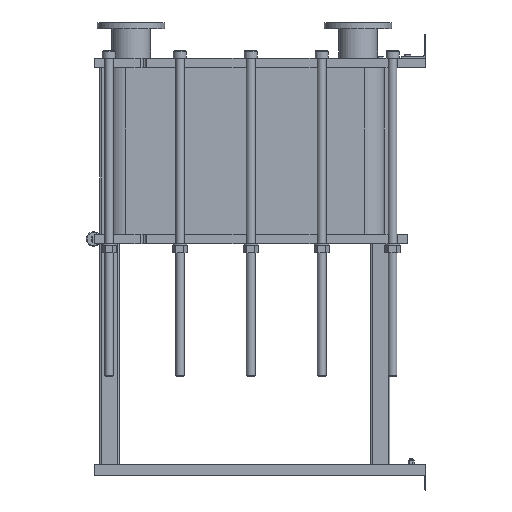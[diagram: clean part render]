
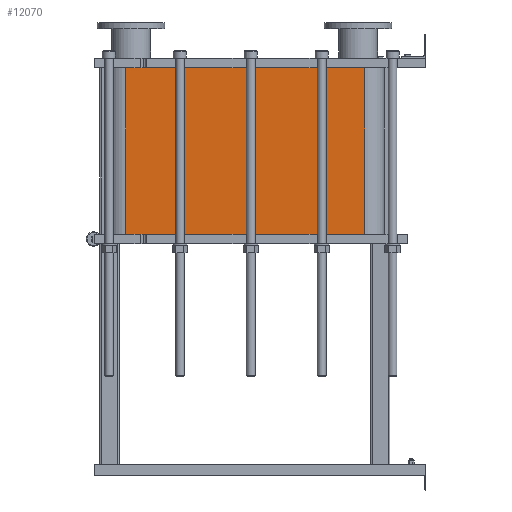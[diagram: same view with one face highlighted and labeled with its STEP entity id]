
A CAD part, left-side view. The second image highlights one B-rep face of the part: STEP entity #12070.
In plain terms, the highlighted planar face has unit normal (-1, 0, 0).
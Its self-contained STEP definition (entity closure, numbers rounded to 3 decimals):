
#1064=LINE('',#21140,#2164);
#1065=LINE('',#21144,#2165);
#1066=LINE('',#21146,#2166);
#1067=LINE('',#21147,#2167);
#2164=VECTOR('',#15790,10.);
#2165=VECTOR('',#15795,10.);
#2166=VECTOR('',#15796,10.);
#2167=VECTOR('',#15797,10.);
#3304=FACE_OUTER_BOUND('',#4091,.T.);
#4091=EDGE_LOOP('',(#9793,#9794,#9795,#9796));
#5677=VERTEX_POINT('',#21137);
#5678=VERTEX_POINT('',#21139);
#5679=VERTEX_POINT('',#21143);
#5680=VERTEX_POINT('',#21145);
#7118=EDGE_CURVE('',#5678,#5677,#1064,.T.);
#7120=EDGE_CURVE('',#5677,#5679,#1065,.T.);
#7121=EDGE_CURVE('',#5680,#5679,#1066,.T.);
#7122=EDGE_CURVE('',#5680,#5678,#1067,.T.);
#9793=ORIENTED_EDGE('',*,*,#7120,.T.);
#9794=ORIENTED_EDGE('',*,*,#7121,.F.);
#9795=ORIENTED_EDGE('',*,*,#7122,.T.);
#9796=ORIENTED_EDGE('',*,*,#7118,.T.);
#11441=PLANE('',#13191);
#12070=ADVANCED_FACE('',(#3304),#11441,.T.);
#13191=AXIS2_PLACEMENT_3D('',#21142,#15793,#15794);
#15790=DIRECTION('',(0.,0.,-1.));
#15793=DIRECTION('center_axis',(-1.,0.,0.));
#15794=DIRECTION('ref_axis',(0.,1.,0.));
#15795=DIRECTION('',(0.,-1.,0.));
#15796=DIRECTION('',(0.,0.,-1.));
#15797=DIRECTION('',(0.,1.,0.));
#21137=CARTESIAN_POINT('',(-248.152,1243.818,-690.));
#21139=CARTESIAN_POINT('',(-248.152,1243.818,0.));
#21140=CARTESIAN_POINT('',(-248.152,1243.818,0.));
#21142=CARTESIAN_POINT('Origin',(-248.152,251.818,0.));
#21143=CARTESIAN_POINT('',(-248.152,251.818,-690.));
#21144=CARTESIAN_POINT('',(-248.152,499.818,-690.));
#21145=CARTESIAN_POINT('',(-248.152,251.818,0.));
#21146=CARTESIAN_POINT('',(-248.152,251.818,0.));
#21147=CARTESIAN_POINT('',(-248.152,251.818,0.));
